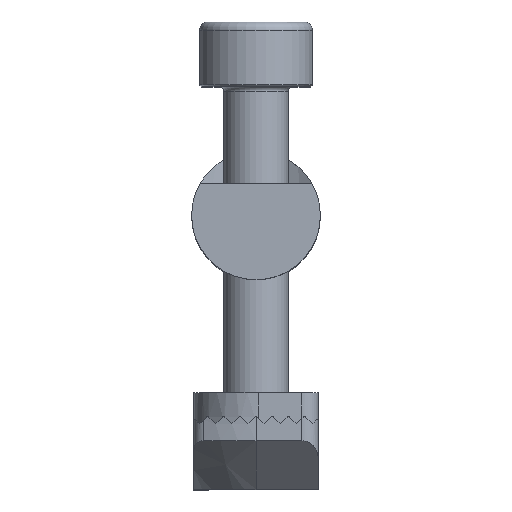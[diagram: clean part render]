
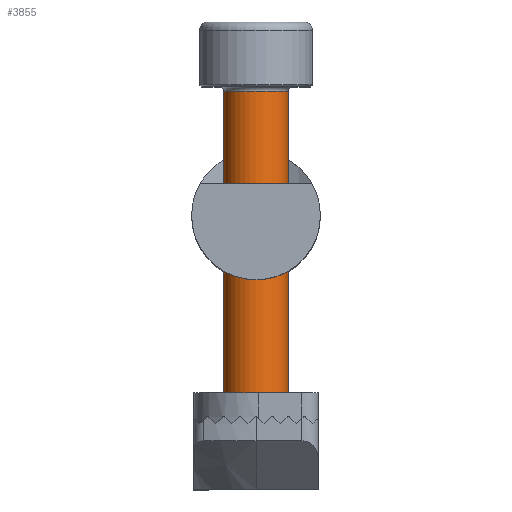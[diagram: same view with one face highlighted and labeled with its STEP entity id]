
A CAD part, top view. The second image highlights one B-rep face of the part: STEP entity #3855.
In plain terms, the highlighted cylindrical face has radius 2 mm (diameter 4 mm), a partial arc.
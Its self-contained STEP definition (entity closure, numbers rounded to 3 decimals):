
#1950 = CIRCLE ( 'NONE', #2204, 2. ) ;
#2173 = CARTESIAN_POINT ( 'NONE',  ( 0., 0., -28.6 ) ) ;
#2179 = DIRECTION ( 'NONE',  ( 0., 0., 1. ) ) ;
#2185 = DIRECTION ( 'NONE',  ( -1., 0., 0. ) ) ;
#2204 = AXIS2_PLACEMENT_3D ( 'NONE', #2173, #2179, #2185 ) ;
#2606 = DIRECTION ( 'NONE',  ( 1., 0., 0. ) ) ;
#2607 = DIRECTION ( 'NONE',  ( 0., 0., 1. ) ) ;
#2611 = CARTESIAN_POINT ( 'NONE',  ( 0., 0., -29. ) ) ;
#2634 = CYLINDRICAL_SURFACE ( 'NONE', #2642, 2. ) ;
#2642 = AXIS2_PLACEMENT_3D ( 'NONE', #2611, #2607, #2606 ) ;
#2650 = FACE_OUTER_BOUND ( 'NONE', #3823, .T. ) ;
#3112 = LINE ( 'NONE', #3124, #3117 ) ;
#3114 = DIRECTION ( 'NONE',  ( 0., 0., 1. ) ) ;
#3117 = VECTOR ( 'NONE', #3114, 1000. ) ;
#3124 = CARTESIAN_POINT ( 'NONE',  ( -2., 0., -29. ) ) ;
#3182 = CARTESIAN_POINT ( 'NONE',  ( 2., 0., -28.6 ) ) ;
#3189 = CARTESIAN_POINT ( 'NONE',  ( -2., 0., -28.6 ) ) ;
#3364 = CARTESIAN_POINT ( 'NONE',  ( 2., 0., -29. ) ) ;
#3369 = LINE ( 'NONE', #3364, #3395 ) ;
#3370 = CARTESIAN_POINT ( 'NONE',  ( -2., 0., -4.3 ) ) ;
#3371 = DIRECTION ( 'NONE',  ( 0., 0., 1. ) ) ;
#3393 = CIRCLE ( 'NONE', #3430, 2. ) ;
#3395 = VECTOR ( 'NONE', #3371, 1000. ) ;
#3418 = CARTESIAN_POINT ( 'NONE',  ( 2., 0., -4.3 ) ) ;
#3428 = DIRECTION ( 'NONE',  ( 1., 0., 0. ) ) ;
#3429 = DIRECTION ( 'NONE',  ( 0., 0., -1. ) ) ;
#3430 = AXIS2_PLACEMENT_3D ( 'NONE', #3433, #3429, #3428 ) ;
#3433 = CARTESIAN_POINT ( 'NONE',  ( 0., 0., -4.3 ) ) ;
#3808 = ORIENTED_EDGE ( 'NONE', *, *, #3852, .T. ) ;
#3809 = ORIENTED_EDGE ( 'NONE', *, *, #4044, .T. ) ;
#3823 = EDGE_LOOP ( 'NONE', ( #3826, #3808, #3809, #3860 ) ) ;
#3826 = ORIENTED_EDGE ( 'NONE', *, *, #4021, .F. ) ;
#3852 = EDGE_CURVE ( 'NONE', #3965, #3966, #1950, .T. ) ;
#3855 = ADVANCED_FACE ( 'NONE', ( #2650 ), #2634, .T. ) ;
#3860 = ORIENTED_EDGE ( 'NONE', *, *, #4051, .T. ) ;
#3965 = VERTEX_POINT ( 'NONE', #3189 ) ;
#3966 = VERTEX_POINT ( 'NONE', #3182 ) ;
#4021 = EDGE_CURVE ( 'NONE', #3965, #4046, #3112, .T. ) ;
#4029 = VERTEX_POINT ( 'NONE', #3418 ) ;
#4044 = EDGE_CURVE ( 'NONE', #3966, #4029, #3369, .T. ) ;
#4046 = VERTEX_POINT ( 'NONE', #3370 ) ;
#4051 = EDGE_CURVE ( 'NONE', #4029, #4046, #3393, .T. ) ;
